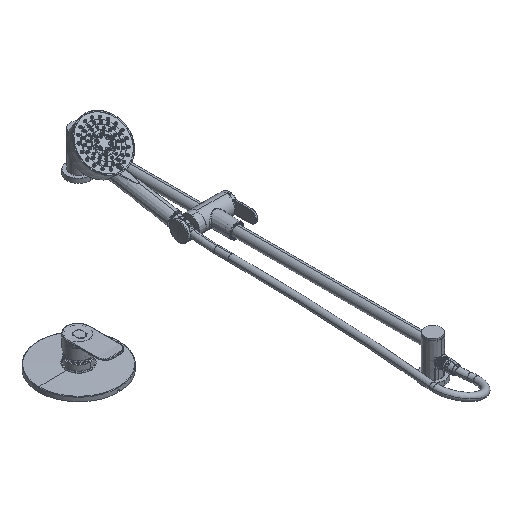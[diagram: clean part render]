
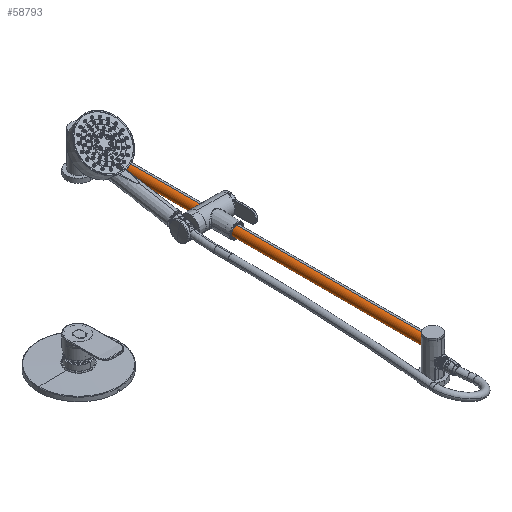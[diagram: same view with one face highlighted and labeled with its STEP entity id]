
A CAD part, isometric view. The second image highlights one B-rep face of the part: STEP entity #58793.
In plain terms, the highlighted cylindrical face has radius 10.2 mm (diameter 20.4 mm), a partial arc.
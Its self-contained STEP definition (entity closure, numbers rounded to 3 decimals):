
#539 = CARTESIAN_POINT ( 'NONE',  ( -10.2, 380., 0. ) ) ;
#3457 = DIRECTION ( 'NONE',  ( 0., -1., 0. ) ) ;
#6399 = CYLINDRICAL_SURFACE ( 'NONE', #27934, 10.2 ) ;
#6885 = CARTESIAN_POINT ( 'NONE',  ( 0., 418., 0. ) ) ;
#7302 = VECTOR ( 'NONE', #3457, 1000. ) ;
#9496 = CARTESIAN_POINT ( 'NONE',  ( 0., -380., 0. ) ) ;
#15529 = DIRECTION ( 'NONE',  ( 1., 0., 0. ) ) ;
#19561 = VERTEX_POINT ( 'NONE', #539 ) ;
#20884 = CARTESIAN_POINT ( 'NONE',  ( 10.2, -380., 0. ) ) ;
#20995 = VECTOR ( 'NONE', #91088, 1000. ) ;
#24410 = EDGE_CURVE ( 'NONE', #26239, #19561, #74718, .T. ) ;
#26239 = VERTEX_POINT ( 'NONE', #87561 ) ;
#27934 = AXIS2_PLACEMENT_3D ( 'NONE', #6885, #35407, #64402 ) ;
#30808 = EDGE_LOOP ( 'NONE', ( #49896, #55185, #52570, #86285 ) ) ;
#35407 = DIRECTION ( 'NONE',  ( 0., -1., 0. ) ) ;
#38846 = LINE ( 'NONE', #89678, #20995 ) ;
#42509 = FACE_OUTER_BOUND ( 'NONE', #30808, .T. ) ;
#49896 = ORIENTED_EDGE ( 'NONE', *, *, #91256, .F. ) ;
#50849 = DIRECTION ( 'NONE',  ( 0., -1., 0. ) ) ;
#52432 = CARTESIAN_POINT ( 'NONE',  ( -10.2, 418., 0. ) ) ;
#52570 = ORIENTED_EDGE ( 'NONE', *, *, #63836, .T. ) ;
#52948 = VERTEX_POINT ( 'NONE', #87205 ) ;
#54029 = EDGE_CURVE ( 'NONE', #67203, #52948, #85246, .T. ) ;
#55185 = ORIENTED_EDGE ( 'NONE', *, *, #24410, .T. ) ;
#58793 = ADVANCED_FACE ( 'NONE', ( #42509 ), #6399, .T. ) ;
#63836 = EDGE_CURVE ( 'NONE', #19561, #52948, #68594, .T. ) ;
#64402 = DIRECTION ( 'NONE',  ( -1., 0., 0. ) ) ;
#67014 = AXIS2_PLACEMENT_3D ( 'NONE', #9496, #50849, #81737 ) ;
#67203 = VERTEX_POINT ( 'NONE', #20884 ) ;
#67791 = CARTESIAN_POINT ( 'NONE',  ( 0., 380., 0. ) ) ;
#68594 = LINE ( 'NONE', #52432, #7302 ) ;
#74463 = DIRECTION ( 'NONE',  ( 0., -1., 0. ) ) ;
#74718 = CIRCLE ( 'NONE', #86812, 10.2 ) ;
#81737 = DIRECTION ( 'NONE',  ( 1., 0., 0. ) ) ;
#85246 = CIRCLE ( 'NONE', #67014, 10.2 ) ;
#86285 = ORIENTED_EDGE ( 'NONE', *, *, #54029, .F. ) ;
#86812 = AXIS2_PLACEMENT_3D ( 'NONE', #67791, #74463, #15529 ) ;
#87205 = CARTESIAN_POINT ( 'NONE',  ( -10.2, -380., 0. ) ) ;
#87561 = CARTESIAN_POINT ( 'NONE',  ( 10.2, 380., 0. ) ) ;
#89678 = CARTESIAN_POINT ( 'NONE',  ( 10.2, 418., 0. ) ) ;
#91088 = DIRECTION ( 'NONE',  ( 0., -1., 0. ) ) ;
#91256 = EDGE_CURVE ( 'NONE', #26239, #67203, #38846, .T. ) ;
